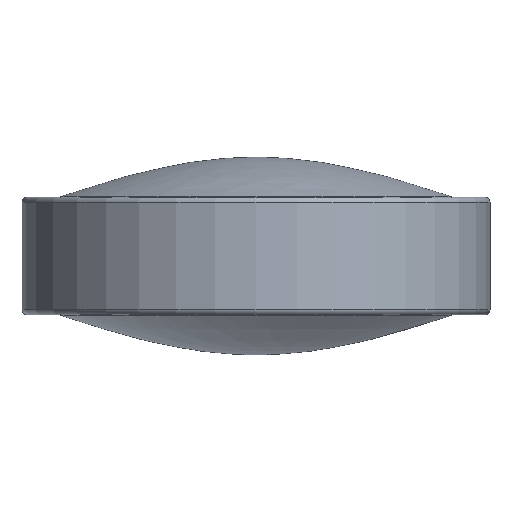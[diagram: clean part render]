
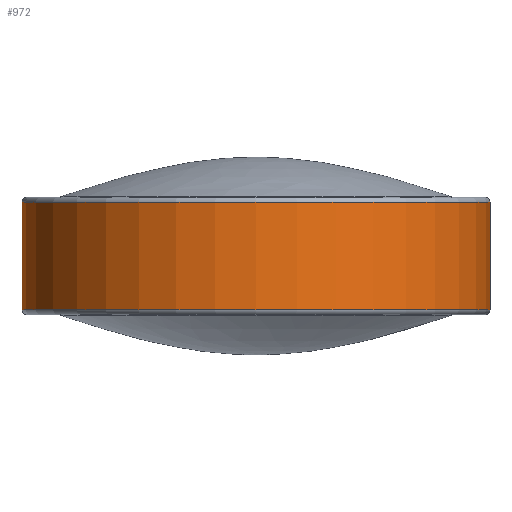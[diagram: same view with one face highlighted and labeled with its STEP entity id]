
A CAD part, front view. The second image highlights one B-rep face of the part: STEP entity #972.
In plain terms, the highlighted cylindrical face has radius 2.25 mm (diameter 4.5 mm), a partial arc.
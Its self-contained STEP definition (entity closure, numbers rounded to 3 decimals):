
#282=CARTESIAN_POINT('',(0.,0.,0.435));
#283=DIRECTION('',(0.,0.,-1.));
#284=DIRECTION('',(1.,0.,0.));
#285=AXIS2_PLACEMENT_3D('',#282,#283,#284);
#287=DIRECTION('',(0.,0.,-1.));
#288=VECTOR('',#287,1.029);
#289=CARTESIAN_POINT('',(-2.25,0.,1.465));
#290=LINE('',#289,#288);
#291=CARTESIAN_POINT('',(0.,0.,1.465));
#292=DIRECTION('',(0.,0.,-1.));
#293=DIRECTION('',(1.,0.,0.));
#294=AXIS2_PLACEMENT_3D('',#291,#292,#293);
#296=DIRECTION('',(0.,0.,-1.));
#297=VECTOR('',#296,1.029);
#298=CARTESIAN_POINT('',(2.25,0.,1.465));
#299=LINE('',#298,#297);
#614=CARTESIAN_POINT('',(2.25,0.,0.435));
#615=CARTESIAN_POINT('',(-2.25,0.,0.435));
#616=VERTEX_POINT('',#614);
#617=VERTEX_POINT('',#615);
#618=CARTESIAN_POINT('',(2.25,0.,1.465));
#619=CARTESIAN_POINT('',(-2.25,0.,1.465));
#620=VERTEX_POINT('',#618);
#621=VERTEX_POINT('',#619);
#958=CARTESIAN_POINT('',(0.,0.,-0.095));
#959=DIRECTION('',(0.,0.,1.));
#960=DIRECTION('',(-1.,0.,0.));
#961=AXIS2_PLACEMENT_3D('',#958,#959,#960);
#962=CYLINDRICAL_SURFACE('',#961,2.25);
#964=ORIENTED_EDGE('',*,*,#963,.T.);
#966=ORIENTED_EDGE('',*,*,#965,.F.);
#967=ORIENTED_EDGE('',*,*,#948,.F.);
#969=ORIENTED_EDGE('',*,*,#968,.T.);
#970=EDGE_LOOP('',(#964,#966,#967,#969));
#971=FACE_OUTER_BOUND('',#970,.F.);
#972=ADVANCED_FACE('',(#971),#962,.T.);
#286=CIRCLE('',#285,2.25);
#295=CIRCLE('',#294,2.25);
#948=EDGE_CURVE('',#620,#621,#295,.T.);
#963=EDGE_CURVE('',#616,#617,#286,.T.);
#965=EDGE_CURVE('',#621,#617,#290,.T.);
#968=EDGE_CURVE('',#620,#616,#299,.T.);
